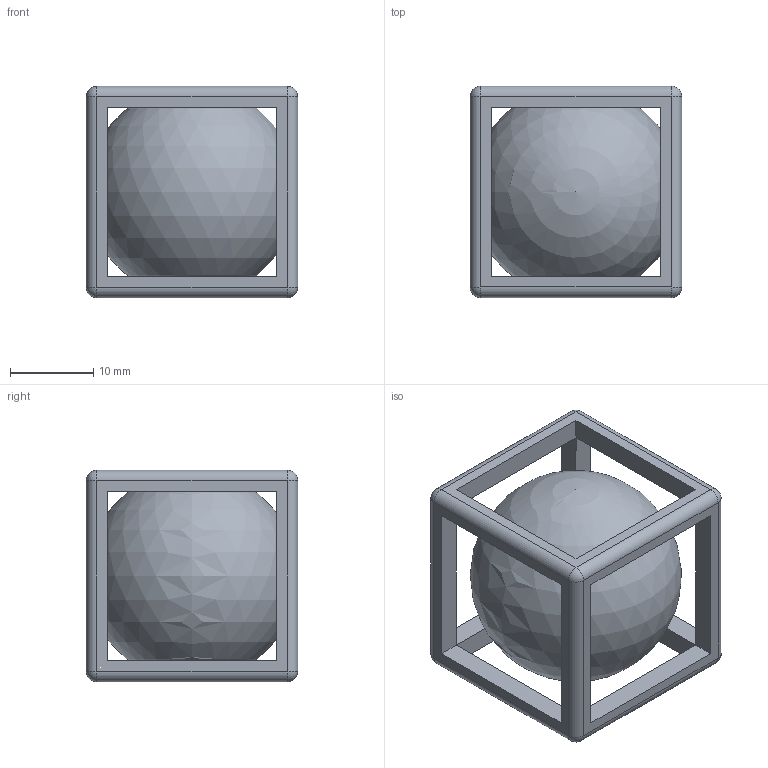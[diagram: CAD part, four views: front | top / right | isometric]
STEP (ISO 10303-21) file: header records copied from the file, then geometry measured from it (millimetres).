
FILE_DESCRIPTION(/* description */ (''),/* implementation_level */ '2;1');
FILE_NAME(/* name */ 'C:\Users\parms\Downloads\Ball in Box.stp',/* time_stamp */ '2021-02-16T14:11:29-09:00',/* author */ ('parms'),/* organization */ (''),/* preprocessor_version */ 'ST-DEVELOPER v18',/* originating_system */ 'Autodesk Inventor 2020',/* authorisation */ '');
FILE_SCHEMA (('AUTOMOTIVE_DESIGN { 1 0 10303 214 3 1 1 }'));
Length unit declared in the file: inch
Products named in the file (1): ball in box
Bounding box: 25.4 x 25.4 x 25.4 mm (x, y, z)
Volume: 10181.7 mm3; surface area: 4491.1 mm2
Topology: 2 solids, 2 shells, 51 faces, 111 edges, 58 vertices
Faces by surface type: plane 30, cylinder 12, sphere 9
Entity records: 1378 total; most frequent: DIRECTION 238, CARTESIAN_POINT 219, ORIENTED_EDGE 218, EDGE_CURVE 109, LINE 84, VECTOR 84, AXIS2_PLACEMENT_3D 77, VERTEX_POINT 58
